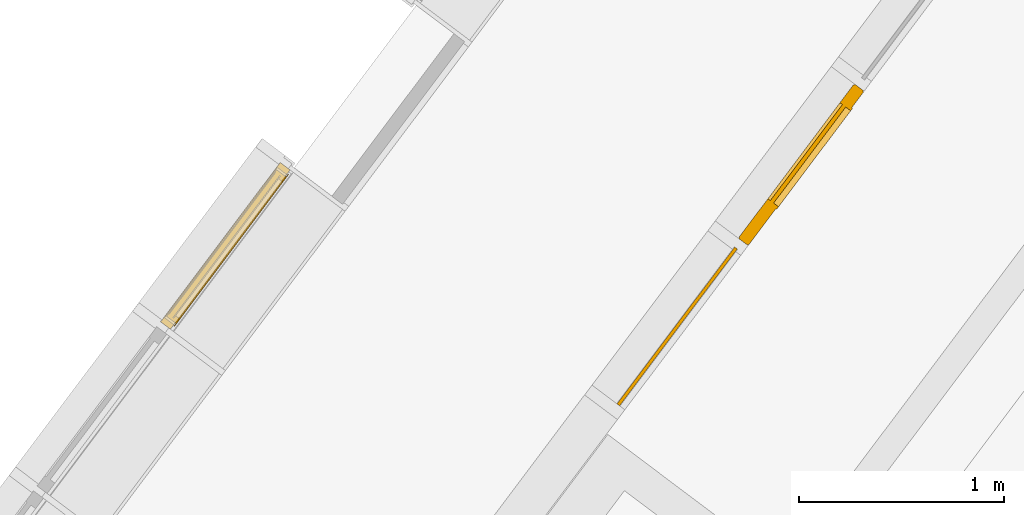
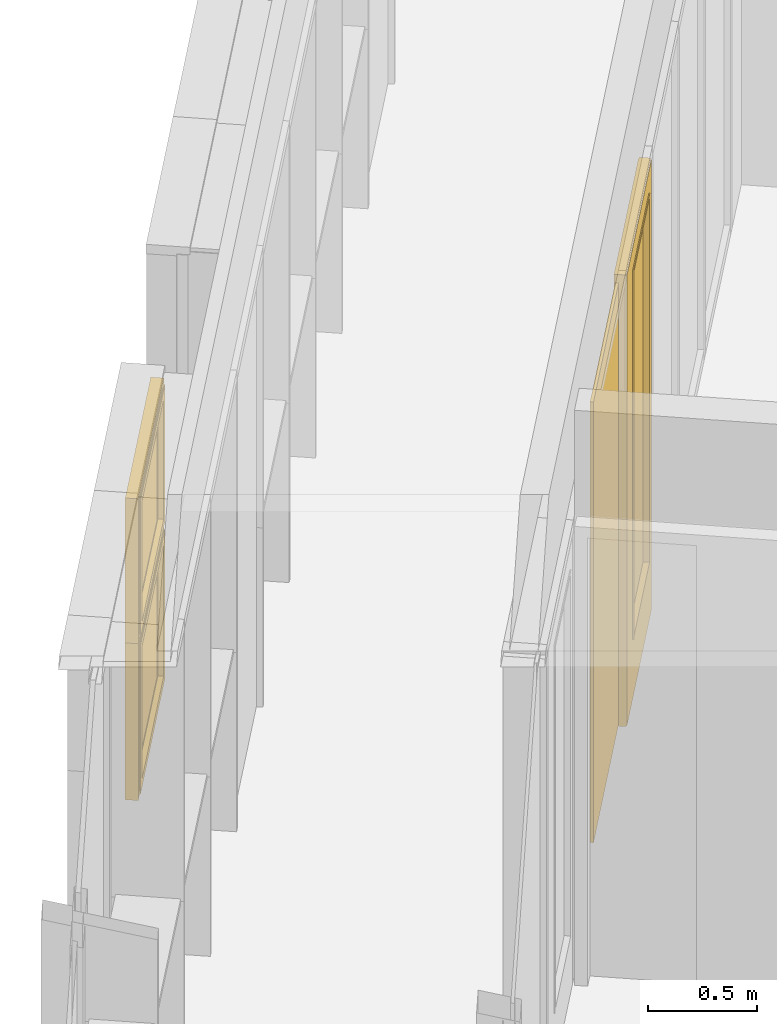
# One storey, part 176 of 243: 3 windows, 1 door, 2 elements without a shape of their own.
"""IFC2X3 building model written with IfcOpenShell, lengths in metres."""

from ifc_helpers import new_model, entity, si_unit, converted_unit, derived_unit, direction, frame, origin, origin_2d_with_axis, place, context, subcontext, project, spatial, rectangle, extrude, faceted_brep, source, transform, mapped, material, material_list, type_object, type_shapes, element, aggregate, save


model = new_model("IFC2X3")

# Units and contexts
model_context = context("Model", 3, precision=1e-05, world=origin(), true_north=direction((6.123031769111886e-17, 1.0)))
body_context = subcontext(model_context, "Body", "Model", "MODEL_VIEW")
ifc_project = project(units=[si_unit("LENGTHUNIT", "METRE"), si_unit("AREAUNIT", "SQUARE_METRE"), si_unit("VOLUMEUNIT", "CUBIC_METRE"), converted_unit("PLANEANGLEUNIT", "DEGREE", entity("IfcRatioMeasure", 0.017453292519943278), si_unit("PLANEANGLEUNIT", "RADIAN"), dimensions=[0, 0, 0, 0, 0, 0, 0]), si_unit("MASSUNIT", "GRAM", prefix="KILO"), derived_unit("MASSDENSITYUNIT", [(si_unit("MASSUNIT", "GRAM", prefix="KILO"), 1), (si_unit("LENGTHUNIT", "METRE"), -3)]), derived_unit("IONCONCENTRATIONUNIT", [(si_unit("MASSUNIT", "GRAM", prefix="KILO"), 1), (si_unit("LENGTHUNIT", "METRE"), -3)]), derived_unit("MOMENTOFINERTIAUNIT", [(si_unit("LENGTHUNIT", "METRE"), 4)]), si_unit("TIMEUNIT", "SECOND"), si_unit("FREQUENCYUNIT", "HERTZ"), si_unit("THERMODYNAMICTEMPERATUREUNIT", "DEGREE_CELSIUS"), derived_unit("THERMALTRANSMITTANCEUNIT", [(si_unit("MASSUNIT", "GRAM", prefix="KILO"), 1), (si_unit("THERMODYNAMICTEMPERATUREUNIT", "KELVIN"), -1), (si_unit("TIMEUNIT", "SECOND"), -3)]), derived_unit("THERMALCONDUCTANCEUNIT", [(si_unit("MASSUNIT", "GRAM", prefix="KILO"), 1), (si_unit("THERMODYNAMICTEMPERATUREUNIT", "KELVIN"), -1), (si_unit("TIMEUNIT", "SECOND"), -3), (si_unit("LENGTHUNIT", "METRE"), 1)]), derived_unit("VOLUMETRICFLOWRATEUNIT", [(si_unit("LENGTHUNIT", "METRE"), 3), (si_unit("TIMEUNIT", "SECOND"), -1)]), derived_unit("MASSFLOWRATEUNIT", [(si_unit("MASSUNIT", "GRAM", prefix="KILO"), 1), (si_unit("TIMEUNIT", "SECOND"), -1)]), derived_unit("ROTATIONALFREQUENCYUNIT", [(si_unit("TIMEUNIT", "SECOND"), -1)]), si_unit("ELECTRICCURRENTUNIT", "AMPERE"), si_unit("ELECTRICVOLTAGEUNIT", "VOLT"), si_unit("POWERUNIT", "WATT"), si_unit("FORCEUNIT", "NEWTON", prefix="KILO"), si_unit("ILLUMINANCEUNIT", "LUX"), si_unit("LUMINOUSFLUXUNIT", "LUMEN"), si_unit("LUMINOUSINTENSITYUNIT", "CANDELA"), derived_unit("USERDEFINED", [(si_unit("MASSUNIT", "GRAM", prefix="KILO"), -1), (si_unit("LENGTHUNIT", "METRE"), -2), (si_unit("TIMEUNIT", "SECOND"), 3), (si_unit("LUMINOUSFLUXUNIT", "LUMEN"), 1)]), derived_unit("USERDEFINED", [(si_unit("MASSUNIT", "GRAM", prefix="KILO"), 1), (si_unit("TIMEUNIT", "SECOND"), -3), (si_unit("LENGTHUNIT", "METRE"), 3), (si_unit("ELECTRICCURRENTUNIT", "AMPERE"), -2)]), derived_unit("SOUNDPOWERUNIT", [(si_unit("MASSUNIT", "GRAM", prefix="KILO"), 1), (si_unit("TIMEUNIT", "SECOND"), -3), (si_unit("LENGTHUNIT", "METRE"), 2)]), derived_unit("SOUNDPRESSUREUNIT", [(si_unit("MASSUNIT", "GRAM", prefix="KILO"), 1), (si_unit("LENGTHUNIT", "METRE"), -1), (si_unit("TIMEUNIT", "SECOND"), -2)]), derived_unit("LINEARVELOCITYUNIT", [(si_unit("LENGTHUNIT", "METRE"), 1), (si_unit("TIMEUNIT", "SECOND"), -1)]), si_unit("PRESSUREUNIT", "PASCAL"), derived_unit("USERDEFINED", [(si_unit("MASSUNIT", "GRAM", prefix="KILO"), 1), (si_unit("LENGTHUNIT", "METRE"), -2), (si_unit("TIMEUNIT", "SECOND"), -2)]), derived_unit("LINEARFORCEUNIT", [(si_unit("MASSUNIT", "GRAM", prefix="KILO"), 1), (si_unit("TIMEUNIT", "SECOND"), -2)]), derived_unit("PLANARFORCEUNIT", [(si_unit("MASSUNIT", "GRAM", prefix="KILO"), 1), (si_unit("LENGTHUNIT", "METRE"), -1), (si_unit("TIMEUNIT", "SECOND"), -2)]), derived_unit("SPECIFICHEATCAPACITYUNIT", [(si_unit("THERMODYNAMICTEMPERATUREUNIT", "KELVIN"), -1), (si_unit("LENGTHUNIT", "METRE"), 2), (si_unit("TIMEUNIT", "SECOND"), -2)]), derived_unit("HEATINGVALUEUNIT", [(si_unit("LENGTHUNIT", "METRE"), 2), (si_unit("TIMEUNIT", "SECOND"), -2)]), derived_unit("VAPORPERMEABILITYUNIT", [(si_unit("LENGTHUNIT", "METRE"), -1), (si_unit("TIMEUNIT", "SECOND"), 1)]), derived_unit("DYNAMICVISCOSITYUNIT", [(si_unit("MASSUNIT", "GRAM", prefix="KILO"), 1), (si_unit("TIMEUNIT", "SECOND"), -1), (si_unit("LENGTHUNIT", "METRE"), -1)]), derived_unit("THERMALEXPANSIONCOEFFICIENTUNIT", [(si_unit("THERMODYNAMICTEMPERATUREUNIT", "KELVIN"), -1)]), derived_unit("MODULUSOFELASTICITYUNIT", [(si_unit("MASSUNIT", "GRAM", prefix="KILO"), 1), (si_unit("LENGTHUNIT", "METRE"), -1), (si_unit("TIMEUNIT", "SECOND"), -2)]), derived_unit("ISOTHERMALMOISTURECAPACITYUNIT", [(si_unit("LENGTHUNIT", "METRE"), 3), (si_unit("MASSUNIT", "GRAM", prefix="KILO"), -1)]), derived_unit("MOISTUREDIFFUSIVITYUNIT", [(si_unit("TIMEUNIT", "SECOND"), -1), (si_unit("LENGTHUNIT", "METRE"), 2)])], contexts=[model_context])

# Site, building, storey
site_placement = place(None, frame((0.0, 0.0, 235.0), z_axis=(0.0, 0.0, 1.0), x_axis=(-0.7996477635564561, 0.6004693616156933, 0.0)))
site = spatial("IfcSite", under=ifc_project, at=site_placement, Name="Default", CompositionType="ELEMENT")
building_placement = place(site_placement, origin())
building = spatial("IfcBuilding", under=site, at=building_placement, CompositionType="ELEMENT")
storey_placement = place(building_placement, origin())
storey = spatial("IfcBuildingStorey", under=building, at=storey_placement, Name="P0- Escola", CompositionType="ELEMENT", Elevation=0.0)

# Curtain wall, window, door
curtain_wall_type_1 = type_object("IfcCurtainWallType", Name="Muro cortina:MC- INT- a1", PredefinedType="NOTDEFINED")
curtain_wall_1_placement = place(storey_placement, origin())
curtain_wall_1 = element("IfcCurtainWall", 1, at=curtain_wall_1_placement, inside=storey, type_object=curtain_wall_type_1, Name="Muro cortina:MC- INT- a1", ObjectType="Muro cortina:MC- INT- a1")
ifc_material_1 = material(Name="_Vidre")
window_style_1 = type_object("IfcWindowStyle", Name="MC- Fusta- vidre fix:MC- Fusta- vidre fix", ConstructionType="NOTDEFINED", OperationType="NOTDEFINED", ParameterTakesPrecedence=False, Sizeable=False, material=ifc_material_1)
shared_shape_1 = source(origin(), body_context, "Body", "SweptSolid", [
    extrude(rectangle(XDim=0.9549999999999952, YDim=0.015999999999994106, at=origin_2d_with_axis()), frame((0.0, 0.0, 0.0), z_axis=(0.0, 0.0, 1.0), x_axis=(-1.0, 0.0, 0.0)), (0.0, 0.0, 1.0), 2.46),
])
type_shapes(window_style_1, [shared_shape_1])
window_1_placement = place(curtain_wall_1_placement, frame((60.02014768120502, -24.922689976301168, 0.045000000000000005), z_axis=(0.0, 0.0, 1.0), x_axis=(0.0, -1.0, 0.0)))
window_1 = element("IfcWindow", 2, at=window_1_placement, type_object=window_style_1, material=ifc_material_1, Name="MC- Fusta- vidre fix:MC- Fusta- vidre fix", ObjectType="MC- Fusta- vidre fix:MC- Fusta- vidre fix", OverallHeight=2.46, OverallWidth=0.9549999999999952, context=body_context, shape_type="MappedRepresentation", body=[
    mapped(shared_shape_1, transform((0.0, 0.0, 0.0), scale=1.0)),
])
ifc_material_2 = material(Name="_Fusta massisa- T1")
ifc_material_list_1 = material_list([ifc_material_2, ifc_material_1])
door_style = type_object("IfcDoorStyle", Name="MC- Fusta- conjunt porta:MC- Fusta- conjunt Porta aules", ConstructionType="NOTDEFINED", OperationType="NOTDEFINED", ParameterTakesPrecedence=False, Sizeable=False, material=ifc_material_list_1)
shared_shape_2 = source(origin(), body_context, "Body", "Brep", [
    faceted_brep([(-0.24500000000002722, -0.04499999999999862, 2.3950000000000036), (-0.24500000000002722, -0.014999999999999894, 2.3950000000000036), (-0.24500000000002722, -0.01499999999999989, 0.3299999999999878), (-0.24500000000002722, -0.04499999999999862, 0.3299999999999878), (0.37000000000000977, -0.01499999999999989, 0.3299999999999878), (0.37000000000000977, -0.04499999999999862, 0.3299999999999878), (0.37000000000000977, -0.01499999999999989, 2.3950000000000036), (0.37000000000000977, -0.04499999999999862, 2.3950000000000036), (-0.23000000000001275, -0.014999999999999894, 2.380000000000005), (-0.23000000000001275, -0.014999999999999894, 0.3449999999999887), (0.3549999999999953, -0.014999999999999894, 0.3449999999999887), (0.3549999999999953, -0.014999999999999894, 2.380000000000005), (-0.23000000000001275, -0.04499999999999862, 2.380000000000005), (0.3549999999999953, -0.04499999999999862, 2.380000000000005), (0.3549999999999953, -0.04499999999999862, 0.3449999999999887), (-0.23000000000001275, -0.04499999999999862, 0.3449999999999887)], [[[0, 1, 2, 3]], [[3, 2, 4, 5]], [[5, 4, 6, 7]], [[8, 9, 10, 11], [1, 6, 4, 2]], [[12, 13, 14, 15], [0, 3, 5, 7]], [[15, 9, 8, 12]], [[14, 10, 9, 15]], [[13, 11, 10, 14]], [[7, 6, 1, 0]], [[12, 8, 11, 13]]], outer=[[True], [True], [True], [False, True], [False, True], [True], [True], [True], [True], [True]]),
    faceted_brep([(-0.4399999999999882, 0.01999999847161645, 0.0), (0.4399999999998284, 0.019999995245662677, 0.0), (0.4399999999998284, -0.010000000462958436, 0.0), (0.4549999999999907, -0.010000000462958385, 0.0), (0.4549999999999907, -0.0399999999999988, 0.0), (-0.45500000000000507, -0.03999999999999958, 0.0), (-0.45500000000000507, -0.010000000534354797, 0.0), (-0.4399999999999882, -0.010000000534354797, 0.0), (-0.45500000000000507, -0.03999999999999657, 2.5050000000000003), (0.4549999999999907, -0.03999999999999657, 2.5050000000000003), (-0.2450000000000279, -0.039999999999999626, 0.3300000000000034), (-0.2450000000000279, -0.040000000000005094, 2.394999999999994), (0.3700000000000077, -0.0399999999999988, 2.394999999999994), (0.3700000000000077, -0.039999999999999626, 0.3300000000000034), (-0.4550000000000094, -0.010000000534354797, 2.5050000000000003), (0.4549999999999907, -0.010000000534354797, 2.5050000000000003), (-0.4399999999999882, 0.019999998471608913, 2.4899999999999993), (-0.4399999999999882, -0.010000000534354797, 2.4899999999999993), (0.4399999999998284, -0.010000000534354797, 2.4899999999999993), (0.4399999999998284, 0.019999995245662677, 2.4899999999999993), (0.3549999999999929, 0.019999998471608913, 0.3450000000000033), (0.3549999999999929, 0.019999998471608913, 2.379999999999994), (-0.2300000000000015, 0.019999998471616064, 2.379999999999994), (-0.2300000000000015, 0.019999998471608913, 0.3450000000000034), (-0.2300000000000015, 0.005000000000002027, 0.3450000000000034), (0.3549999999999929, 0.005000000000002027, 0.3450000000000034), (-0.2300000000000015, 0.005000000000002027, 2.379999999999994), (0.3549999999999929, 0.004999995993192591, 2.379999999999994), (0.3700000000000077, 0.005000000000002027, 0.3300000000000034), (0.3700000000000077, 0.005000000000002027, 2.394999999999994), (-0.24500000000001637, 0.005000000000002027, 2.394999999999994), (-0.2450000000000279, 0.005000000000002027, 0.3300000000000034), (-0.24500000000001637, 0.004999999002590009, 0.3300000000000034), (-0.24500000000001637, 0.004999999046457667, 2.394999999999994), (0.3549999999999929, 0.019999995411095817, 2.379999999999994), (-0.2300000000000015, 0.004999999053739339, 2.379999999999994), (0.3700000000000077, 0.004999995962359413, 2.394999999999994)], [[[0, 1, 2, 3, 4, 5, 6, 7]], [[8, 5, 4, 9], [10, 11, 12, 13]], [[8, 14, 6, 5]], [[15, 9, 4, 3]], [[16, 0, 7, 17]], [[14, 15, 3, 2, 18, 17, 7, 6]], [[18, 2, 1, 19]], [[20, 21, 22, 23], [16, 19, 1, 0]], [[23, 24, 25, 20]], [[23, 22, 26, 24]], [[25, 27, 21, 20]], [[24, 26, 27, 25], [28, 29, 30, 31]], [[13, 28, 32, 10]], [[31, 33, 11, 10]], [[13, 12, 29, 28]], [[9, 15, 14, 8]], [[17, 18, 19, 16]], [[34, 27, 35, 22]], [[11, 30, 36, 12]]], outer=[[True], [True, False], [True], [True], [True], [True], [True], [False, True], [True], [True], [True], [False, True], [True], [True], [True], [True], [True], [True], [True]]),
    faceted_brep([(0.3700000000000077, 0.004999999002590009, 0.3300000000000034), (0.3700000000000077, -0.0149999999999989, 0.3300000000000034), (-0.24500000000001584, -0.014999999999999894, 0.3300000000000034), (-0.24500000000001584, 0.004999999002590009, 0.3300000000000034), (0.3700000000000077, 0.004999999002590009, 2.3950000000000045), (-0.24500000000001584, 0.004999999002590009, 2.3950000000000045), (-0.24500000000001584, -0.014999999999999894, 2.3950000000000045), (0.3700000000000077, -0.0149999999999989, 2.3950000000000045)], [[[0, 1, 2, 3]], [[4, 0, 3, 5]], [[5, 3, 2, 6]], [[6, 2, 1, 7]], [[7, 1, 0, 4]], [[4, 5, 6, 7]]]),
    faceted_brep([(-0.46500000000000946, -0.03999999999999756, 0.0), (-0.46500000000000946, -0.035999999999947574, 0.0), (-0.469999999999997, -0.035999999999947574, 0.0), (-0.469999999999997, 0.016000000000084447, 0.0), (-0.46500000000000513, 0.016000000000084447, 0.0), (-0.46500000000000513, 0.02000000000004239, 0.0), (-0.44000000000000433, 0.02000000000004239, 0.0), (-0.44000000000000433, -0.00999999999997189, 0.0), (-0.4550000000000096, -0.00999999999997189, 0.0), (-0.4550000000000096, -0.03999999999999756, 0.0), (-0.45500000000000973, -0.03999999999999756, 2.5050000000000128), (0.45500000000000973, -0.03999999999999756, 2.5050000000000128), (0.45500000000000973, -0.03999999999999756, 0.0), (0.46500000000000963, -0.03999999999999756, 0.0), (0.46500000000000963, -0.03999999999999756, 2.5150000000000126), (-0.4650000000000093, -0.03999999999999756, 2.515000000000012), (-0.4550000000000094, -0.00999999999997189, 2.5050000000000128), (-0.4400000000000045, -0.00999999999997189, 2.4900000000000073), (0.4400000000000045, -0.00999999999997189, 2.4900000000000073), (0.4400000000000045, -0.00999999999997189, 0.0), (0.45500000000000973, -0.00999999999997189, 0.0), (0.45500000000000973, -0.00999999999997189, 2.5050000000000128), (-0.4400000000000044, 0.02000000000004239, 2.4900000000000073), (-0.4650000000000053, 0.02000000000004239, 2.515000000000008), (0.4650000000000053, 0.02000000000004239, 2.515000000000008), (0.4650000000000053, 0.02000000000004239, 0.0), (0.4400000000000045, 0.02000000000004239, 0.0), (0.4400000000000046, 0.02000000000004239, 2.4900000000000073), (-0.46500000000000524, 0.016000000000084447, 2.515000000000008), (-0.4699999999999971, 0.016000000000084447, 2.52), (0.4699999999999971, 0.016000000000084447, 2.52), (0.4699999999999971, 0.016000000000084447, 0.0), (0.4650000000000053, 0.016000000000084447, 0.0), (0.4650000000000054, 0.016000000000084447, 2.515000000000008), (-0.46999999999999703, -0.035999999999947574, 2.52), (-0.46500000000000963, -0.035999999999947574, 2.5150000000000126), (0.46500000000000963, -0.035999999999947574, 2.5150000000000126), (0.46500000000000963, -0.035999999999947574, 0.0), (0.4699999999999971, -0.035999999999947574, 0.0), (0.46999999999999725, -0.035999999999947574, 2.52)], [[[0, 1, 2, 3, 4, 5, 6, 7, 8, 9]], [[9, 10, 11, 12, 13, 14, 15, 0]], [[8, 16, 10, 9]], [[7, 17, 18, 19, 20, 21, 16, 8]], [[6, 22, 17, 7]], [[5, 23, 24, 25, 26, 27, 22, 6]], [[4, 28, 23, 5]], [[3, 29, 30, 31, 32, 33, 28, 4]], [[2, 34, 29, 3]], [[1, 35, 36, 37, 38, 39, 34, 2]], [[0, 15, 35, 1]], [[14, 13, 37, 36]], [[13, 12, 20, 19, 26, 25, 32, 31, 38, 37]], [[21, 20, 12, 11]], [[27, 26, 19, 18]], [[33, 32, 25, 24]], [[39, 38, 31, 30]], [[16, 21, 11, 10]], [[22, 27, 18, 17]], [[28, 33, 24, 23]], [[34, 39, 30, 29]], [[15, 14, 36, 35]]]),
])
type_shapes(door_style, [shared_shape_2])
door_placement = place(curtain_wall_1_placement, frame((60.02014768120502, -25.915189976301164, 0.0), z_axis=(0.0, 0.0, 1.0), x_axis=(0.0, -1.0, 0.0)))
door = element("IfcDoor", 3, at=door_placement, type_object=door_style, material=ifc_material_list_1, Name="MC- Fusta- conjunt porta:MC- Fusta- conjunt Porta aules", ObjectType="MC- Fusta- conjunt porta:MC- Fusta- conjunt Porta aules", OverallHeight=2.52, OverallWidth=0.9399999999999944, context=body_context, shape_type="MappedRepresentation", body=[
    mapped(shared_shape_2, transform((0.0, 0.0, 0.0), scale=1.0)),
])
aggregate(curtain_wall_1, [window_1, door])

# Curtain wall, windows
curtain_wall_type_2 = type_object("IfcCurtainWallType", Name="Muro cortina:MC- EXT- MC5", PredefinedType="NOTDEFINED")
curtain_wall_2_placement = place(storey_placement, origin())
curtain_wall_2 = element("IfcCurtainWall", 4, at=curtain_wall_2_placement, inside=storey, type_object=curtain_wall_type_2, Name="Muro cortina:MC- EXT- MC5", ObjectType="Muro cortina:MC- EXT- MC5")
ifc_material_3 = material(Name="_Alumini- T1- Perfil")
ifc_material_list_2 = material_list([ifc_material_1, ifc_material_3])
window_style_2 = type_object("IfcWindowStyle", Name="MC- Alu- Conjunt finestra basculant- 68x68 cm:MC- Alu- Conjunt finestra basculant- 68x68 cm", ConstructionType="NOTDEFINED", OperationType="NOTDEFINED", ParameterTakesPrecedence=False, Sizeable=False, material=ifc_material_list_2)
shared_shape_3 = source(origin(), body_context, "Body", "Brep", [
    faceted_brep([(-0.43291170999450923, -0.03559830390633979, 0.051999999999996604), (-0.43291170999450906, -0.011598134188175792, 0.051999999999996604), (0.43291170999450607, -0.011598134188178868, 0.051999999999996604), (0.43291170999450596, -0.03559830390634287, 0.051999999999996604), (-0.43291170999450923, -0.03559830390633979, 0.8228027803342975), (-0.4329117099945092, -0.011598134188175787, 0.8228027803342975), (0.43291170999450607, -0.011598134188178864, 0.8228027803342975), (0.43291170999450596, -0.03559830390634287, 0.8228027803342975)], [[[0, 1, 2, 3]], [[4, 5, 1, 0]], [[5, 6, 2, 1]], [[6, 7, 3, 2]], [[7, 4, 0, 3]], [[4, 7, 6, 5]]]),
    faceted_brep([(0.4172108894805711, -0.009998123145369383, 0.8071019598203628), (0.4172108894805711, -0.007998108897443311, 0.8071019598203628), (0.4172108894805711, -0.007998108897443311, 0.06789804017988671), (0.4172108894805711, -0.009998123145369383, 0.06789804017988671), (0.44610892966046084, -0.007998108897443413, 0.8360000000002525), (0.44610892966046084, -0.007998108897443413, 0.03899999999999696), (-0.44610892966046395, -0.007998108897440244, 0.03899999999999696), (-0.44610892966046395, -0.007998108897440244, 0.8360000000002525), (-0.4172108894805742, -0.007998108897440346, 0.8071019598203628), (-0.4172108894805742, -0.007998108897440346, 0.06789804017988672), (-0.4172108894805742, -0.009998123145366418, 0.06789804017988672), (-0.4172108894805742, -0.009998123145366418, 0.8071019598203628), (-0.4329117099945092, -0.00999812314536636, 0.8228027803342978), (-0.4329117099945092, -0.009998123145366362, 0.05219721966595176), (0.43291170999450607, -0.009998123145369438, 0.052197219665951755), (0.43291170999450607, -0.009998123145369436, 0.8228027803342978), (0.4329117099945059, -0.04079986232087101, 0.8228027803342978), (0.4329117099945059, -0.04079986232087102, 0.052197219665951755), (-0.4329117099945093, -0.04079986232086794, 0.05219721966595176), (-0.4329117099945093, -0.04079986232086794, 0.8228027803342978), (-0.41721088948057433, -0.040799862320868, 0.8071019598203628), (-0.41721088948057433, -0.040799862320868, 0.06789804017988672), (0.41721088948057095, -0.04079986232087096, 0.06789804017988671), (0.41721088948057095, -0.04079986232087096, 0.8071019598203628), (0.41721088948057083, -0.06800005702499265, 0.8071019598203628), (0.4172108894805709, -0.06800005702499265, 0.06789804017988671), (-0.4172108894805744, -0.0680000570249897, 0.06789804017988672), (-0.4172108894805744, -0.0680000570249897, 0.8071019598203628), (-0.4636128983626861, -0.06800005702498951, 0.8535039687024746), (-0.4636128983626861, -0.06800005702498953, 0.021496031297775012), (0.4636128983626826, -0.06800005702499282, 0.021496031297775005), (0.4636128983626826, -0.06800005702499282, 0.8535039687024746), (0.4636128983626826, -0.0645000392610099, 0.8535039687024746), (0.4636128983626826, -0.0645000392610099, 0.021496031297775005), (-0.4636128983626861, -0.06450003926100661, 0.021496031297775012), (-0.4636128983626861, -0.06450003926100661, 0.8535039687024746), (-0.44610892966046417, -0.06450003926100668, 0.8360000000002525), (-0.44610892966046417, -0.06450003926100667, 0.03899999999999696), (0.4461089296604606, -0.06450003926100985, 0.038999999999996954), (0.4461089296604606, -0.06450003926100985, 0.8360000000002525)], [[[0, 1, 2, 3]], [[4, 5, 6, 7], [8, 9, 2, 1]], [[3, 2, 9, 10]], [[0, 3, 10, 11], [12, 13, 14, 15]], [[16, 15, 14, 17]], [[17, 14, 13, 18]], [[16, 17, 18, 19], [20, 21, 22, 23]], [[24, 23, 22, 25]], [[25, 22, 21, 26]], [[24, 25, 26, 27], [28, 29, 30, 31]], [[32, 31, 30, 33]], [[33, 30, 29, 34]], [[32, 33, 34, 35], [36, 37, 38, 39]], [[4, 39, 38, 5]], [[5, 38, 37, 6]], [[10, 9, 8, 11]], [[18, 13, 12, 19]], [[26, 21, 20, 27]], [[34, 29, 28, 35]], [[6, 37, 36, 7]], [[11, 8, 1, 0]], [[19, 12, 15, 16]], [[27, 20, 23, 24]], [[35, 28, 31, 32]], [[7, 36, 39, 4]]], outer=[[True], [True, False], [True], [False, True], [True], [True], [True, False], [True], [True], [False, True], [True], [True], [True, False], [True], [True], [True], [True], [True], [True], [True], [True], [True], [True], [True], [True]]),
    faceted_brep([(-0.42219318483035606, 0.0, 0.8121931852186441), (-0.42219318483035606, -0.0040000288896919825, 0.8121931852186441), (-0.422193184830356, -0.0040000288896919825, 0.06280681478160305), (-0.42219318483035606, 0.0, 0.06280681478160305), (-0.4575998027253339, -0.0040000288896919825, 0.847599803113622), (-0.4575998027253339, -0.0040000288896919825, 0.027400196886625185), (0.4575998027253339, -0.0040000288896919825, 0.027400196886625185), (0.4575998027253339, -0.0040000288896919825, 0.847599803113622), (0.422193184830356, -0.0040000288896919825, 0.812193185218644), (0.42219318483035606, -0.0040000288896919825, 0.06280681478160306), (0.42219318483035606, 0.0, 0.06280681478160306), (0.42219318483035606, 0.0, 0.8121931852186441), (0.4849999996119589, 0.0, 0.8750000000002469), (0.48499999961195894, 0.0, 0.0), (-0.4849999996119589, 0.0, 0.0), (-0.48499999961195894, 0.0, 0.8750000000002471), (-0.48499999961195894, -0.05999999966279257, 0.8750000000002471), (-0.48499999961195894, -0.05999999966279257, 0.0), (0.48499999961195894, -0.05999999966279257, 0.0), (0.48499999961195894, -0.05999999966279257, 0.8750000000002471), (0.45759980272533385, -0.05999999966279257, 0.8475998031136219), (0.4575998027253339, -0.05999999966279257, 0.027400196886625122), (-0.45759980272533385, -0.05999999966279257, 0.027400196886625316), (-0.4575998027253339, -0.05999999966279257, 0.847599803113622)], [[[0, 1, 2, 3]], [[4, 5, 6, 7], [8, 9, 2, 1]], [[3, 2, 9, 10]], [[0, 3, 10, 11], [12, 13, 14, 15]], [[16, 15, 14, 17]], [[17, 14, 13, 18]], [[16, 17, 18, 19], [20, 21, 22, 23]], [[4, 23, 22, 5]], [[5, 22, 21, 6]], [[10, 9, 8, 11]], [[18, 13, 12, 19]], [[6, 21, 20, 7]], [[11, 8, 1, 0]], [[19, 12, 15, 16]], [[7, 20, 23, 4]]], outer=[[True], [True, False], [True], [False, True], [True], [True], [True, False], [True], [True], [True], [True], [True], [True], [True], [True]]),
])
type_shapes(window_style_2, [shared_shape_3])
window_2_placement = place(curtain_wall_2_placement, frame((62.04514768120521, -23.91519175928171, 0.8200000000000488), z_axis=(0.0, 0.0, 1.0), x_axis=(0.0, -1.0, 0.0)))
window_2 = element("IfcWindow", 5, at=window_2_placement, type_object=window_style_2, material=ifc_material_list_2, Name="MC- Alu- Conjunt finestra basculant- 68x68 cm:MC- Alu- Conjunt finestra basculant- 68x68 cm", ObjectType="MC- Alu- Conjunt finestra basculant- 68x68 cm:MC- Alu- Conjunt finestra basculant- 68x68 cm", OverallHeight=0.8750000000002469, OverallWidth=0.9699999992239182, context=body_context, shape_type="MappedRepresentation", body=[
    mapped(shared_shape_3, transform((0.0, 0.0, 0.0), scale=1.0)),
])
window_style_3 = type_object("IfcWindowStyle", Name="MC- Alu- Conjunt finestra basculant- 68x68 cm:MC- Alu- Conjunt finestra basculant- 68x68 cm", ConstructionType="NOTDEFINED", OperationType="NOTDEFINED", ParameterTakesPrecedence=False, Sizeable=False, material=ifc_material_list_2)
shared_shape_4 = source(origin(), body_context, "Body", "Brep", [
    faceted_brep([(-0.43291170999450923, -0.03559830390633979, 0.051999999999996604), (-0.43291170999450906, -0.011598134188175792, 0.051999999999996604), (0.43291170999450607, -0.011598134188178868, 0.051999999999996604), (0.43291170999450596, -0.03559830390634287, 0.051999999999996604), (-0.43291170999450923, -0.03559830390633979, 0.7565527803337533), (-0.4329117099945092, -0.011598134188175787, 0.7565527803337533), (0.43291170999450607, -0.011598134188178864, 0.7565527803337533), (0.43291170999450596, -0.03559830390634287, 0.7565527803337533)], [[[0, 1, 2, 3]], [[4, 5, 1, 0]], [[5, 6, 2, 1]], [[6, 7, 3, 2]], [[7, 4, 0, 3]], [[4, 7, 6, 5]]]),
    faceted_brep([(0.4172108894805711, -0.009998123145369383, 0.7408519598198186), (0.4172108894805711, -0.007998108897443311, 0.7408519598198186), (0.4172108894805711, -0.007998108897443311, 0.06789804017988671), (0.4172108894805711, -0.009998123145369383, 0.06789804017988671), (0.44610892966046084, -0.007998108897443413, 0.7697499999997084), (0.44610892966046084, -0.007998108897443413, 0.03899999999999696), (-0.44610892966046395, -0.007998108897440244, 0.03899999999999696), (-0.44610892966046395, -0.007998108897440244, 0.7697499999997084), (-0.4172108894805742, -0.007998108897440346, 0.7408519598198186), (-0.4172108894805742, -0.007998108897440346, 0.06789804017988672), (-0.4172108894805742, -0.009998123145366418, 0.06789804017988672), (-0.4172108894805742, -0.009998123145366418, 0.7408519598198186), (-0.4329117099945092, -0.00999812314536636, 0.7565527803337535), (-0.4329117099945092, -0.009998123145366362, 0.05219721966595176), (0.43291170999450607, -0.009998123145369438, 0.052197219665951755), (0.43291170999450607, -0.009998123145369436, 0.7565527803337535), (0.4329117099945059, -0.04079986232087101, 0.7565527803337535), (0.4329117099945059, -0.04079986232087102, 0.052197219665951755), (-0.4329117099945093, -0.04079986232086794, 0.05219721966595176), (-0.4329117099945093, -0.04079986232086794, 0.7565527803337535), (-0.41721088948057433, -0.040799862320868, 0.7408519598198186), (-0.41721088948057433, -0.040799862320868, 0.06789804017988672), (0.41721088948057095, -0.04079986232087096, 0.06789804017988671), (0.41721088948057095, -0.04079986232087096, 0.7408519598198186), (0.41721088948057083, -0.06800005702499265, 0.7408519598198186), (0.4172108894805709, -0.06800005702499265, 0.06789804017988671), (-0.4172108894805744, -0.0680000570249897, 0.06789804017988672), (-0.4172108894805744, -0.0680000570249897, 0.7408519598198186), (-0.4636128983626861, -0.06800005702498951, 0.7872539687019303), (-0.4636128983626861, -0.06800005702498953, 0.021496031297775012), (0.4636128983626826, -0.06800005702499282, 0.021496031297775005), (0.4636128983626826, -0.06800005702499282, 0.7872539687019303), (0.4636128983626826, -0.0645000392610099, 0.7872539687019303), (0.4636128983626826, -0.0645000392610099, 0.021496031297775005), (-0.4636128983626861, -0.06450003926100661, 0.021496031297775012), (-0.4636128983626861, -0.06450003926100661, 0.7872539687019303), (-0.44610892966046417, -0.06450003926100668, 0.7697499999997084), (-0.44610892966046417, -0.06450003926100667, 0.03899999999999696), (0.4461089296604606, -0.06450003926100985, 0.038999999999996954), (0.4461089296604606, -0.06450003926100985, 0.7697499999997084)], [[[0, 1, 2, 3]], [[4, 5, 6, 7], [8, 9, 2, 1]], [[3, 2, 9, 10]], [[0, 3, 10, 11], [12, 13, 14, 15]], [[16, 15, 14, 17]], [[17, 14, 13, 18]], [[16, 17, 18, 19], [20, 21, 22, 23]], [[24, 23, 22, 25]], [[25, 22, 21, 26]], [[24, 25, 26, 27], [28, 29, 30, 31]], [[32, 31, 30, 33]], [[33, 30, 29, 34]], [[32, 33, 34, 35], [36, 37, 38, 39]], [[4, 39, 38, 5]], [[5, 38, 37, 6]], [[10, 9, 8, 11]], [[18, 13, 12, 19]], [[26, 21, 20, 27]], [[34, 29, 28, 35]], [[6, 37, 36, 7]], [[11, 8, 1, 0]], [[19, 12, 15, 16]], [[27, 20, 23, 24]], [[35, 28, 31, 32]], [[7, 36, 39, 4]]], outer=[[True], [True, False], [True], [False, True], [True], [True], [True, False], [True], [True], [False, True], [True], [True], [True, False], [True], [True], [True], [True], [True], [True], [True], [True], [True], [True], [True], [True]]),
    faceted_brep([(-0.42219318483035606, 0.0, 0.7459431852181), (-0.42219318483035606, -0.0040000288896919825, 0.7459431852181), (-0.422193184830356, -0.0040000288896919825, 0.06280681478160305), (-0.42219318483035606, 0.0, 0.06280681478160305), (-0.4575998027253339, -0.0040000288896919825, 0.7813498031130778), (-0.4575998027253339, -0.0040000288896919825, 0.027400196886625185), (0.4575998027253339, -0.0040000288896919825, 0.027400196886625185), (0.4575998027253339, -0.0040000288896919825, 0.7813498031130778), (0.422193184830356, -0.0040000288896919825, 0.7459431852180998), (0.42219318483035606, -0.0040000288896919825, 0.06280681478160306), (0.42219318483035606, 0.0, 0.06280681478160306), (0.42219318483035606, 0.0, 0.7459431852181), (0.48499999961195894, 0.0, 0.8087499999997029), (0.48499999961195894, 0.0, 0.0), (-0.48499999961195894, 0.0, 0.0), (-0.48499999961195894, 0.0, 0.8087499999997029), (-0.48499999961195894, -0.05999999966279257, 0.8087499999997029), (-0.48499999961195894, -0.05999999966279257, 0.0), (0.48499999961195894, -0.05999999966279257, 0.0), (0.48499999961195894, -0.05999999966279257, 0.8087499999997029), (0.4575998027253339, -0.05999999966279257, 0.7813498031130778), (0.4575998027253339, -0.05999999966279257, 0.027400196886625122), (-0.4575998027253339, -0.05999999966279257, 0.02740019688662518), (-0.4575998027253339, -0.05999999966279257, 0.7813498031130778)], [[[0, 1, 2, 3]], [[4, 5, 6, 7], [8, 9, 2, 1]], [[3, 2, 9, 10]], [[0, 3, 10, 11], [12, 13, 14, 15]], [[16, 15, 14, 17]], [[17, 14, 13, 18]], [[16, 17, 18, 19], [20, 21, 22, 23]], [[4, 23, 22, 5]], [[5, 22, 21, 6]], [[10, 9, 8, 11]], [[18, 13, 12, 19]], [[6, 21, 20, 7]], [[11, 8, 1, 0]], [[19, 12, 15, 16]], [[7, 20, 23, 4]]], outer=[[True], [True, False], [True], [False, True], [True], [True], [True, False], [True], [True], [True], [True], [True], [True], [True], [True]]),
])
type_shapes(window_style_3, [shared_shape_4])
window_3_placement = place(curtain_wall_2_placement, frame((62.04514768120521, -23.91519175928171, 1.695000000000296), z_axis=(0.0, 0.0, 1.0), x_axis=(0.0, -1.0, 0.0)))
window_3 = element("IfcWindow", 6, at=window_3_placement, type_object=window_style_3, material=ifc_material_list_2, Name="MC- Alu- Conjunt finestra basculant- 68x68 cm:MC- Alu- Conjunt finestra basculant- 68x68 cm", ObjectType="MC- Alu- Conjunt finestra basculant- 68x68 cm:MC- Alu- Conjunt finestra basculant- 68x68 cm", OverallHeight=0.8087499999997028, OverallWidth=0.9699999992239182, context=body_context, shape_type="MappedRepresentation", body=[
    mapped(shared_shape_4, transform((0.0, 0.0, 0.0), scale=1.0)),
])
aggregate(curtain_wall_2, [window_2, window_3])

save(model, "model.ifc")
